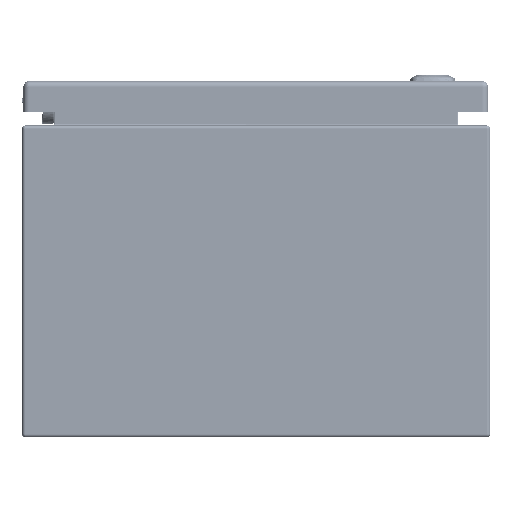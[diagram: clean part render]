
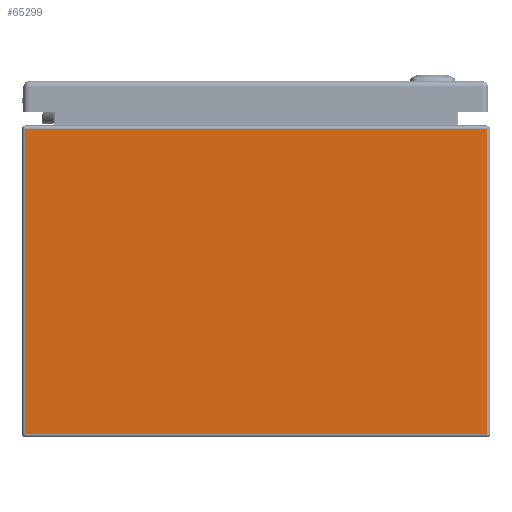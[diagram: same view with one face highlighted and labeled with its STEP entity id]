
A CAD part, front view. The second image highlights one B-rep face of the part: STEP entity #65299.
In plain terms, the highlighted planar face has unit normal (0, -1, 0).
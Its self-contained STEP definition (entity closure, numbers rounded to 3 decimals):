
#6338=LINE('',#91460,#10375);
#6345=LINE('',#91475,#10382);
#6347=LINE('',#91482,#10384);
#6349=LINE('',#91491,#10386);
#10375=VECTOR('',#76016,0.394);
#10382=VECTOR('',#76029,0.394);
#10384=VECTOR('',#76037,0.394);
#10386=VECTOR('',#76049,0.394);
#15455=FACE_OUTER_BOUND('',#19465,.T.);
#19465=EDGE_LOOP('',(#43446,#43447,#43448,#43449));
#26170=VERTEX_POINT('',#91430);
#26177=VERTEX_POINT('',#91456);
#26182=VERTEX_POINT('',#91474);
#26184=VERTEX_POINT('',#91480);
#32855=EDGE_CURVE('',#26170,#26177,#6338,.T.);
#32862=EDGE_CURVE('',#26177,#26182,#6345,.T.);
#32866=EDGE_CURVE('',#26184,#26170,#6347,.T.);
#32871=EDGE_CURVE('',#26184,#26182,#6349,.T.);
#43446=ORIENTED_EDGE('',*,*,#32855,.F.);
#43447=ORIENTED_EDGE('',*,*,#32866,.F.);
#43448=ORIENTED_EDGE('',*,*,#32871,.T.);
#43449=ORIENTED_EDGE('',*,*,#32862,.F.);
#63901=PLANE('',#70189);
#65299=ADVANCED_FACE('',(#15455),#63901,.F.);
#70189=AXIS2_PLACEMENT_3D('',#91502,#76063,#76064);
#76016=DIRECTION('',(1.,0.,0.));
#76029=DIRECTION('',(0.,0.,-1.));
#76037=DIRECTION('',(0.,0.,1.));
#76049=DIRECTION('',(1.,0.,0.));
#76063=DIRECTION('center_axis',(0.,1.,0.));
#76064=DIRECTION('ref_axis',(0.,0.,1.));
#91430=CARTESIAN_POINT('',(-5.916,-12.,7.916));
#91456=CARTESIAN_POINT('',(5.916,-12.,7.916));
#91460=CARTESIAN_POINT('',(2.979,-12.,7.916));
#91474=CARTESIAN_POINT('',(5.916,-12.,0.084));
#91475=CARTESIAN_POINT('',(5.916,-12.,4.));
#91480=CARTESIAN_POINT('',(-5.916,-12.,0.084));
#91482=CARTESIAN_POINT('',(-5.916,-12.,4.));
#91491=CARTESIAN_POINT('',(-2.958,-12.,0.084));
#91502=CARTESIAN_POINT('Origin',(0.,-12.,4.));
